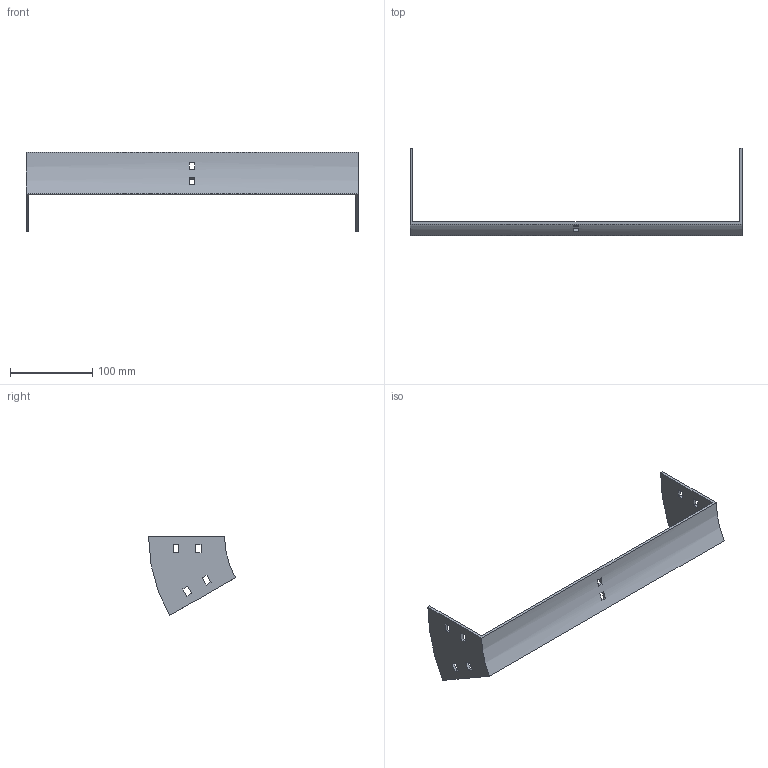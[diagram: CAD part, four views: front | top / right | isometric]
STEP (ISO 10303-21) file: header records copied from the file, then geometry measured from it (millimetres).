
FILE_DESCRIPTION (( 'STEP AP214' ), '1' );
FILE_NAME ('35B1I400.step', '2025-02-21T09:27:04', ( '' ), ( '' ), 'SwSTEP 2.0', 'SolidWorks 2023', '' );
FILE_SCHEMA (( 'AUTOMOTIVE_DESIGN' ));
Length unit declared in the file: millimetre
Products named in the file (1): 35B1I400
Bounding box: 404 x 105.9 x 96.25 mm (x, y, z)
Volume: 121235.3 mm3; surface area: 75222.5 mm2
Topology: 1 solids, 1 shells, 50 faces, 144 edges, 96 vertices
Faces by surface type: plane 46, cylinder 4
Entity records: 1687 total; most frequent: CARTESIAN_POINT 291, ORIENTED_EDGE 288, DIRECTION 262, EDGE_CURVE 144, VECTOR 128, LINE 128, VERTEX_POINT 96, EDGE_LOOP 70
